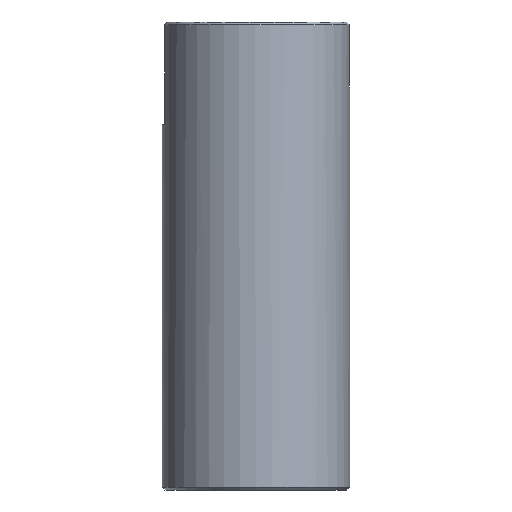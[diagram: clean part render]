
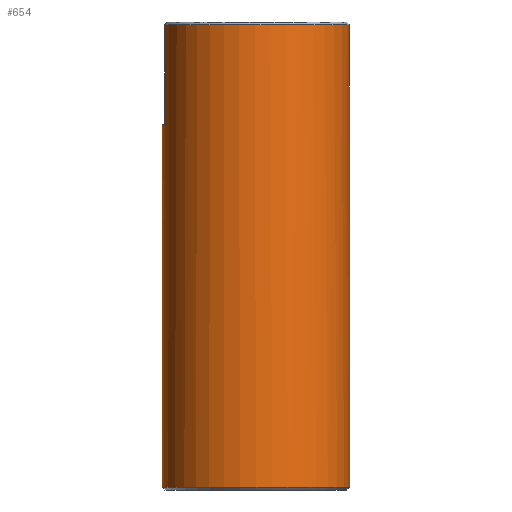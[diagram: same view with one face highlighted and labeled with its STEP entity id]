
A CAD part, front view. The second image highlights one B-rep face of the part: STEP entity #654.
In plain terms, the highlighted cylindrical face has radius 18 mm (diameter 36 mm), a partial arc.
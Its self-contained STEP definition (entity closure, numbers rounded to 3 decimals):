
#280=AXIS2_PLACEMENT_3D('Circle Axis2P3D',#278,#279,$) ;
#344=AXIS2_PLACEMENT_3D('Circle Axis2P3D',#342,#343,$) ;
#611=AXIS2_PLACEMENT_3D('Cylinder Axis2P3D',#608,#609,#610) ;
#615=AXIS2_PLACEMENT_3D('Circle Axis2P3D',#613,#614,$) ;
#634=AXIS2_PLACEMENT_3D('Circle Axis2P3D',#632,#633,$) ;
#268=CARTESIAN_POINT('Vertex',(-18.,0.,0.5)) ;
#275=CARTESIAN_POINT('Vertex',(18.,0.,0.5)) ;
#278=CARTESIAN_POINT('Axis2P3D Location',(0.,0.,0.5)) ;
#339=CARTESIAN_POINT('Vertex',(-18.,0.,70.3)) ;
#342=CARTESIAN_POINT('Axis2P3D Location',(0.,0.,70.3)) ;
#346=CARTESIAN_POINT('Vertex',(-17.55,-4.,70.3)) ;
#400=CARTESIAN_POINT('Vertex',(-17.55,-4.,89.5)) ;
#424=CARTESIAN_POINT('Line Origine',(-17.55,-4.,79.9)) ;
#608=CARTESIAN_POINT('Axis2P3D Location',(0.,0.,35.65)) ;
#613=CARTESIAN_POINT('Axis2P3D Location',(0.,0.,89.5)) ;
#617=CARTESIAN_POINT('Vertex',(17.937,-1.5,89.5)) ;
#620=CARTESIAN_POINT('Line Origine',(-18.,0.,66.3)) ;
#625=CARTESIAN_POINT('Line Origine',(18.,0.,66.3)) ;
#629=CARTESIAN_POINT('Vertex',(18.,0.,77.5)) ;
#632=CARTESIAN_POINT('Axis2P3D Location',(0.,0.,77.5)) ;
#636=CARTESIAN_POINT('Vertex',(17.937,-1.5,77.5)) ;
#639=CARTESIAN_POINT('Line Origine',(17.937,-1.5,66.3)) ;
#279=DIRECTION('Axis2P3D Direction',(0.,0.,1.)) ;
#343=DIRECTION('Axis2P3D Direction',(0.,0.,1.)) ;
#425=DIRECTION('Vector Direction',(0.,0.,-1.)) ;
#609=DIRECTION('Axis2P3D Direction',(0.,0.,1.)) ;
#610=DIRECTION('Axis2P3D XDirection',(1.,0.,0.)) ;
#614=DIRECTION('Axis2P3D Direction',(0.,0.,1.)) ;
#621=DIRECTION('Vector Direction',(0.,0.,1.)) ;
#626=DIRECTION('Vector Direction',(0.,0.,1.)) ;
#633=DIRECTION('Axis2P3D Direction',(0.,0.,1.)) ;
#640=DIRECTION('Vector Direction',(0.,0.,1.)) ;
#426=VECTOR('Line Direction',#425,1.) ;
#622=VECTOR('Line Direction',#621,1.) ;
#627=VECTOR('Line Direction',#626,1.) ;
#641=VECTOR('Line Direction',#640,1.) ;
#645=ORIENTED_EDGE('',*,*,#619,.T.) ;
#646=ORIENTED_EDGE('',*,*,#428,.T.) ;
#647=ORIENTED_EDGE('',*,*,#348,.F.) ;
#648=ORIENTED_EDGE('',*,*,#624,.F.) ;
#649=ORIENTED_EDGE('',*,*,#282,.T.) ;
#650=ORIENTED_EDGE('',*,*,#631,.T.) ;
#651=ORIENTED_EDGE('',*,*,#638,.F.) ;
#652=ORIENTED_EDGE('',*,*,#643,.F.) ;
#654=ADVANCED_FACE('\X2\96F64EF651E04F554F53\X0\',(#653),#612,.T.) ;
#281=CIRCLE('generated circle',#280,18.) ;
#345=CIRCLE('generated circle',#344,18.) ;
#616=CIRCLE('generated circle',#615,18.) ;
#635=CIRCLE('generated circle',#634,18.) ;
#612=CYLINDRICAL_SURFACE('generated cylinder',#611,18.) ;
#282=EDGE_CURVE('',#269,#276,#281,.T.) ;
#348=EDGE_CURVE('',#340,#347,#345,.T.) ;
#428=EDGE_CURVE('',#401,#347,#427,.T.) ;
#619=EDGE_CURVE('',#618,#401,#616,.F.) ;
#624=EDGE_CURVE('',#269,#340,#623,.T.) ;
#631=EDGE_CURVE('',#276,#630,#628,.T.) ;
#638=EDGE_CURVE('',#637,#630,#635,.T.) ;
#643=EDGE_CURVE('',#618,#637,#642,.F.) ;
#644=EDGE_LOOP('',(#645,#646,#647,#648,#649,#650,#651,#652)) ;
#653=FACE_OUTER_BOUND('',#644,.T.) ;
#427=LINE('Line',#424,#426) ;
#623=LINE('Line',#620,#622) ;
#628=LINE('Line',#625,#627) ;
#642=LINE('Line',#639,#641) ;
#269=VERTEX_POINT('',#268) ;
#276=VERTEX_POINT('',#275) ;
#340=VERTEX_POINT('',#339) ;
#347=VERTEX_POINT('',#346) ;
#401=VERTEX_POINT('',#400) ;
#618=VERTEX_POINT('',#617) ;
#630=VERTEX_POINT('',#629) ;
#637=VERTEX_POINT('',#636) ;
